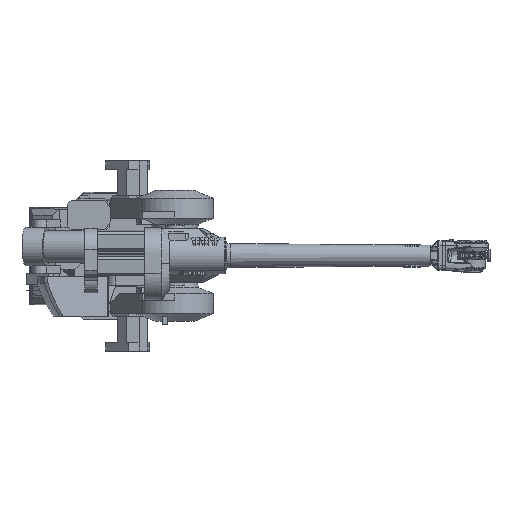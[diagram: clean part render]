
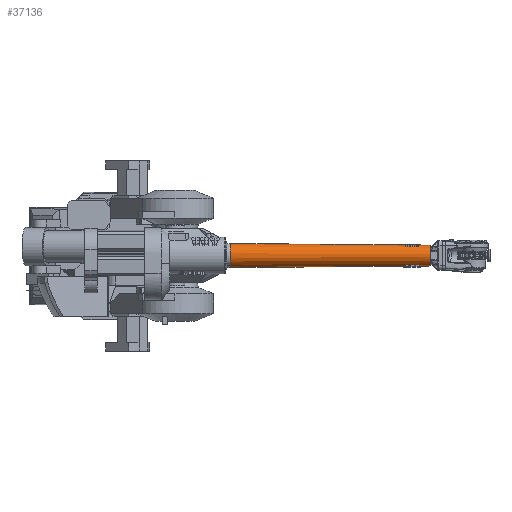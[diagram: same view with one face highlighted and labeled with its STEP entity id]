
A CAD part, top view. The second image highlights one B-rep face of the part: STEP entity #37136.
In plain terms, the highlighted conical face has half-angle 0.455 degrees and reference radius 60.5 mm.
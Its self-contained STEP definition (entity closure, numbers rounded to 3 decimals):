
#833=CONICAL_SURFACE('',#40262,60.5,0.008);
#4059=FACE_OUTER_BOUND('',#6281,.T.);
#6281=EDGE_LOOP('',(#28105,#28106,#28107,#28108,#28109));
#9004=LINE('',#67623,#12261);
#12261=VECTOR('',#45362,60.5);
#14761=CIRCLE('',#40260,60.5);
#14762=CIRCLE('',#40261,60.5);
#14763=CIRCLE('',#40263,52.5);
#16819=VERTEX_POINT('',#67616);
#16820=VERTEX_POINT('',#67618);
#16821=VERTEX_POINT('',#67622);
#20990=EDGE_CURVE('',#16820,#16819,#14761,.T.);
#20991=EDGE_CURVE('',#16819,#16820,#14762,.T.);
#20992=EDGE_CURVE('',#16820,#16821,#9004,.T.);
#20993=EDGE_CURVE('',#16821,#16821,#14763,.T.);
#28105=ORIENTED_EDGE('',*,*,#20990,.T.);
#28106=ORIENTED_EDGE('',*,*,#20991,.T.);
#28107=ORIENTED_EDGE('',*,*,#20992,.T.);
#28108=ORIENTED_EDGE('',*,*,#20993,.T.);
#28109=ORIENTED_EDGE('',*,*,#20992,.F.);
#37136=ADVANCED_FACE('',(#4059),#833,.T.);
#40260=AXIS2_PLACEMENT_3D('',#67619,#45356,#45357);
#40261=AXIS2_PLACEMENT_3D('',#67620,#45358,#45359);
#40262=AXIS2_PLACEMENT_3D('',#67621,#45360,#45361);
#40263=AXIS2_PLACEMENT_3D('',#67624,#45363,#45364);
#45356=DIRECTION('center_axis',(1.,0.,0.));
#45357=DIRECTION('ref_axis',(0.,-1.,0.));
#45358=DIRECTION('center_axis',(1.,0.,0.));
#45359=DIRECTION('ref_axis',(0.,-1.,0.));
#45360=DIRECTION('center_axis',(-1.,0.,0.));
#45361=DIRECTION('ref_axis',(0.,-1.,0.));
#45362=DIRECTION('',(1.,-0.008,0.));
#45363=DIRECTION('center_axis',(-1.,0.,0.));
#45364=DIRECTION('ref_axis',(0.,-1.,0.));
#67616=CARTESIAN_POINT('',(478.5,0.,1659.5));
#67618=CARTESIAN_POINT('',(478.5,60.5,1720.));
#67619=CARTESIAN_POINT('Origin',(478.5,0.,
1720.));
#67620=CARTESIAN_POINT('Origin',(478.5,0.,
1720.));
#67621=CARTESIAN_POINT('Origin',(478.5,0.,
1720.));
#67622=CARTESIAN_POINT('',(1485.349,52.5,1720.));
#67623=CARTESIAN_POINT('',(478.5,60.5,1720.));
#67624=CARTESIAN_POINT('Origin',(1485.349,0.,
1720.));
